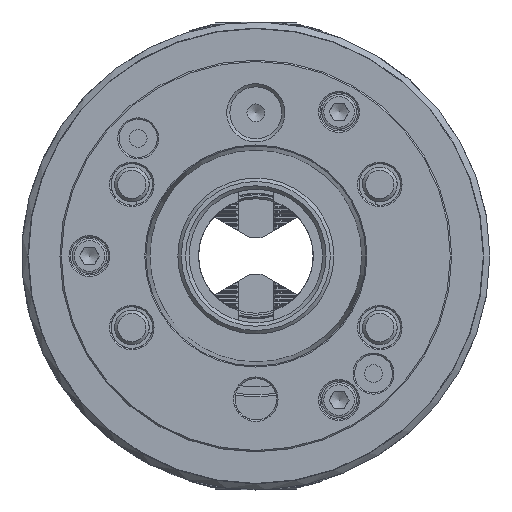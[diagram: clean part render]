
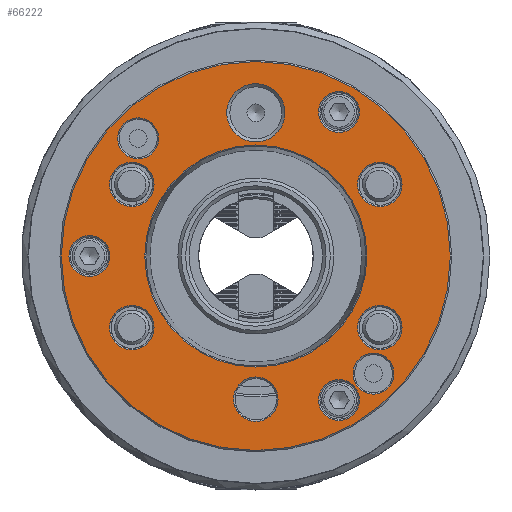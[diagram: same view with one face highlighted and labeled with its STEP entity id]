
A CAD part, front view. The second image highlights one B-rep face of the part: STEP entity #66222.
In plain terms, the highlighted planar face has unit normal (0, -1, 0).
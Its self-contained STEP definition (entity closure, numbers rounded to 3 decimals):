
#3365=FACE_BOUND('',#22759,.T.);
#3366=FACE_BOUND('',#22760,.T.);
#3367=FACE_BOUND('',#22761,.T.);
#3368=FACE_BOUND('',#22762,.T.);
#3369=FACE_BOUND('',#22763,.T.);
#3370=FACE_BOUND('',#22764,.T.);
#3371=FACE_BOUND('',#22765,.T.);
#3372=FACE_BOUND('',#22766,.T.);
#3373=FACE_BOUND('',#22767,.T.);
#3374=FACE_BOUND('',#22768,.T.);
#3375=FACE_BOUND('',#22769,.T.);
#3376=FACE_BOUND('',#22770,.T.);
#19242=FACE_OUTER_BOUND('',#22758,.T.);
#22758=EDGE_LOOP('',(#49768));
#22759=EDGE_LOOP('',(#49769));
#22760=EDGE_LOOP('',(#49770));
#22761=EDGE_LOOP('',(#49771));
#22762=EDGE_LOOP('',(#49772));
#22763=EDGE_LOOP('',(#49773));
#22764=EDGE_LOOP('',(#49774));
#22765=EDGE_LOOP('',(#49775));
#22766=EDGE_LOOP('',(#49776));
#22767=EDGE_LOOP('',(#49777));
#22768=EDGE_LOOP('',(#49778));
#22769=EDGE_LOOP('',(#49779));
#22770=EDGE_LOOP('',(#49780));
#25711=CIRCLE('',#70538,56.1);
#25712=CIRCLE('',#70539,8.4);
#25713=CIRCLE('',#70540,5.9);
#25714=CIRCLE('',#70541,5.9);
#25715=CIRCLE('',#70542,5.9);
#25716=CIRCLE('',#70543,5.9);
#25717=CIRCLE('',#70544,5.9);
#25718=CIRCLE('',#70545,6.4);
#25719=CIRCLE('',#70546,6.4);
#25720=CIRCLE('',#70547,6.4);
#25721=CIRCLE('',#70548,6.4);
#25722=CIRCLE('',#70549,6.4);
#25723=CIRCLE('',#70550,32.037);
#28563=VERTEX_POINT('',#98164);
#28564=VERTEX_POINT('',#98166);
#28565=VERTEX_POINT('',#98168);
#28566=VERTEX_POINT('',#98170);
#28567=VERTEX_POINT('',#98172);
#28568=VERTEX_POINT('',#98174);
#28569=VERTEX_POINT('',#98176);
#28570=VERTEX_POINT('',#98178);
#28571=VERTEX_POINT('',#98180);
#28572=VERTEX_POINT('',#98182);
#28573=VERTEX_POINT('',#98184);
#28574=VERTEX_POINT('',#98186);
#28575=VERTEX_POINT('',#98188);
#36372=EDGE_CURVE('',#28563,#28563,#25711,.T.);
#36373=EDGE_CURVE('',#28564,#28564,#25712,.T.);
#36374=EDGE_CURVE('',#28565,#28565,#25713,.T.);
#36375=EDGE_CURVE('',#28566,#28566,#25714,.T.);
#36376=EDGE_CURVE('',#28567,#28567,#25715,.T.);
#36377=EDGE_CURVE('',#28568,#28568,#25716,.T.);
#36378=EDGE_CURVE('',#28569,#28569,#25717,.T.);
#36379=EDGE_CURVE('',#28570,#28570,#25718,.T.);
#36380=EDGE_CURVE('',#28571,#28571,#25719,.T.);
#36381=EDGE_CURVE('',#28572,#28572,#25720,.T.);
#36382=EDGE_CURVE('',#28573,#28573,#25721,.T.);
#36383=EDGE_CURVE('',#28574,#28574,#25722,.T.);
#36384=EDGE_CURVE('',#28575,#28575,#25723,.T.);
#49768=ORIENTED_EDGE('',*,*,#36372,.T.);
#49769=ORIENTED_EDGE('',*,*,#36373,.T.);
#49770=ORIENTED_EDGE('',*,*,#36374,.T.);
#49771=ORIENTED_EDGE('',*,*,#36375,.T.);
#49772=ORIENTED_EDGE('',*,*,#36376,.T.);
#49773=ORIENTED_EDGE('',*,*,#36377,.T.);
#49774=ORIENTED_EDGE('',*,*,#36378,.T.);
#49775=ORIENTED_EDGE('',*,*,#36379,.T.);
#49776=ORIENTED_EDGE('',*,*,#36380,.T.);
#49777=ORIENTED_EDGE('',*,*,#36381,.T.);
#49778=ORIENTED_EDGE('',*,*,#36382,.T.);
#49779=ORIENTED_EDGE('',*,*,#36383,.T.);
#49780=ORIENTED_EDGE('',*,*,#36384,.T.);
#63671=PLANE('',#70537);
#66222=ADVANCED_FACE('',(#19242,#3365,#3366,#3367,#3368,#3369,#3370,#3371,
#3372,#3373,#3374,#3375,#3376),#63671,.T.);
#70537=AXIS2_PLACEMENT_3D('',#98163,#80122,#80123);
#70538=AXIS2_PLACEMENT_3D('',#98165,#80124,#80125);
#70539=AXIS2_PLACEMENT_3D('',#98167,#80126,#80127);
#70540=AXIS2_PLACEMENT_3D('',#98169,#80128,#80129);
#70541=AXIS2_PLACEMENT_3D('',#98171,#80130,#80131);
#70542=AXIS2_PLACEMENT_3D('',#98173,#80132,#80133);
#70543=AXIS2_PLACEMENT_3D('',#98175,#80134,#80135);
#70544=AXIS2_PLACEMENT_3D('',#98177,#80136,#80137);
#70545=AXIS2_PLACEMENT_3D('',#98179,#80138,#80139);
#70546=AXIS2_PLACEMENT_3D('',#98181,#80140,#80141);
#70547=AXIS2_PLACEMENT_3D('',#98183,#80142,#80143);
#70548=AXIS2_PLACEMENT_3D('',#98185,#80144,#80145);
#70549=AXIS2_PLACEMENT_3D('',#98187,#80146,#80147);
#70550=AXIS2_PLACEMENT_3D('',#98189,#80148,#80149);
#80122=DIRECTION('center_axis',(0.,-1.,0.));
#80123=DIRECTION('ref_axis',(-0.866,0.,-0.5));
#80124=DIRECTION('center_axis',(0.,-1.,0.));
#80125=DIRECTION('ref_axis',(-0.5,0.,0.866));
#80126=DIRECTION('center_axis',(0.,1.,0.));
#80127=DIRECTION('ref_axis',(-0.5,0.,0.866));
#80128=DIRECTION('center_axis',(0.,1.,0.));
#80129=DIRECTION('ref_axis',(-0.5,0.,-0.866));
#80130=DIRECTION('center_axis',(0.,1.,0.));
#80131=DIRECTION('ref_axis',(1.,0.,0.));
#80132=DIRECTION('center_axis',(0.,1.,0.));
#80133=DIRECTION('ref_axis',(-0.5,0.,0.866));
#80134=DIRECTION('center_axis',(0.,1.,0.));
#80135=DIRECTION('ref_axis',(0.5,0.,-0.866));
#80136=DIRECTION('center_axis',(0.,1.,0.));
#80137=DIRECTION('ref_axis',(-0.5,0.,0.866));
#80138=DIRECTION('center_axis',(0.,1.,0.));
#80139=DIRECTION('ref_axis',(-0.5,0.,-0.866));
#80140=DIRECTION('center_axis',(0.,1.,0.));
#80141=DIRECTION('ref_axis',(0.5,0.,-0.866));
#80142=DIRECTION('center_axis',(0.,1.,0.));
#80143=DIRECTION('ref_axis',(1.,0.,0.));
#80144=DIRECTION('center_axis',(0.,1.,0.));
#80145=DIRECTION('ref_axis',(0.5,0.,0.866));
#80146=DIRECTION('center_axis',(0.,1.,0.));
#80147=DIRECTION('ref_axis',(-0.5,0.,0.866));
#80148=DIRECTION('center_axis',(0.,1.,0.));
#80149=DIRECTION('ref_axis',(-0.5,0.,0.866));
#98163=CARTESIAN_POINT('Origin',(15.878,-16.,-27.502));
#98164=CARTESIAN_POINT('',(28.05,-16.,-48.584));
#98165=CARTESIAN_POINT('Origin',(0.,-16.,0.));
#98166=CARTESIAN_POINT('',(4.2,-16.,34.025));
#98167=CARTESIAN_POINT('Origin',(0.,-16.,41.3));
#98168=CARTESIAN_POINT('',(26.95,-16.,46.679));
#98169=CARTESIAN_POINT('Origin',(24.,-16.,41.569));
#98170=CARTESIAN_POINT('',(-53.9,-16.,0.));
#98171=CARTESIAN_POINT('Origin',(-48.,-16.,0.));
#98172=CARTESIAN_POINT('',(26.95,-16.,-46.679));
#98173=CARTESIAN_POINT('Origin',(24.,-16.,-41.569));
#98174=CARTESIAN_POINT('',(-36.891,-16.,39.051));
#98175=CARTESIAN_POINT('Origin',(-33.941,-16.,33.941));
#98176=CARTESIAN_POINT('',(36.891,-16.,-39.051));
#98177=CARTESIAN_POINT('Origin',(33.941,-16.,-33.941));
#98178=CARTESIAN_POINT('',(-32.567,-16.,26.193));
#98179=CARTESIAN_POINT('Origin',(-35.767,-16.,20.65));
#98180=CARTESIAN_POINT('',(-38.967,-16.,-15.107));
#98181=CARTESIAN_POINT('Origin',(-35.767,-16.,-20.65));
#98182=CARTESIAN_POINT('',(-6.4,-16.,-41.3));
#98183=CARTESIAN_POINT('Origin',(0.,-16.,-41.3));
#98184=CARTESIAN_POINT('',(32.567,-16.,-26.193));
#98185=CARTESIAN_POINT('Origin',(35.767,-16.,-20.65));
#98186=CARTESIAN_POINT('',(38.967,-16.,15.107));
#98187=CARTESIAN_POINT('Origin',(35.767,-16.,20.65));
#98188=CARTESIAN_POINT('',(16.018,-16.,-27.745));
#98189=CARTESIAN_POINT('Origin',(0.,-16.,0.));
